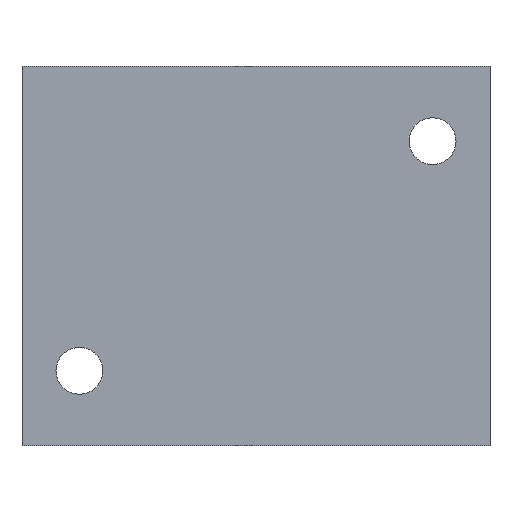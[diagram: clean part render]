
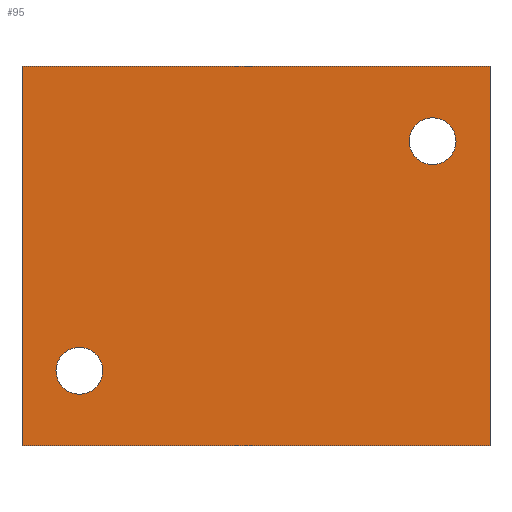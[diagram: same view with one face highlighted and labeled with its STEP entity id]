
A CAD part, front view. The second image highlights one B-rep face of the part: STEP entity #95.
In plain terms, the highlighted planar face has unit normal (0, -1, 0).
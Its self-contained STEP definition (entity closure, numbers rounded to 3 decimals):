
#95=ADVANCED_FACE('',(#218,#219,#220),#221,.F.);
#218=FACE_BOUND('',#470,.T.);
#219=FACE_OUTER_BOUND('',#471,.T.);
#220=FACE_BOUND('',#472,.T.);
#221=PLANE('',#473);
#470=EDGE_LOOP('',(#818));
#471=EDGE_LOOP('',(#819,#820,#821,#822));
#472=EDGE_LOOP('',(#823));
#473=AXIS2_PLACEMENT_3D('',#824,#825,#826);
#818=ORIENTED_EDGE('',*,*,#1290,.T.);
#819=ORIENTED_EDGE('',*,*,#1306,.T.);
#820=ORIENTED_EDGE('',*,*,#1315,.F.);
#821=ORIENTED_EDGE('',*,*,#1298,.F.);
#822=ORIENTED_EDGE('',*,*,#1316,.T.);
#823=ORIENTED_EDGE('',*,*,#1317,.T.);
#824=CARTESIAN_POINT('',(26.5,-22.0,-21.5));
#825=DIRECTION('',(-0.0,1.0,0.0));
#826=DIRECTION('',(1.0,0.0,0.0));
#1290=EDGE_CURVE('',#1477,#1477,#1478,.T.);
#1298=EDGE_CURVE('',#1491,#1493,#1494,.T.);
#1306=EDGE_CURVE('',#1508,#1506,#1509,.T.);
#1315=EDGE_CURVE('',#1493,#1506,#1521,.T.);
#1316=EDGE_CURVE('',#1491,#1508,#1522,.T.);
#1317=EDGE_CURVE('',#1523,#1523,#1524,.T.);
#1477=VERTEX_POINT('',#1793);
#1478=CIRCLE('',#1794,2.65);
#1491=VERTEX_POINT('',#1813);
#1493=VERTEX_POINT('',#1816);
#1494=LINE('',#1817,#1818);
#1506=VERTEX_POINT('',#1836);
#1508=VERTEX_POINT('',#1839);
#1509=LINE('',#1840,#1841);
#1521=LINE('',#1861,#1862);
#1522=LINE('',#1863,#1864);
#1523=VERTEX_POINT('',#1865);
#1524=CIRCLE('',#1866,2.65);
#1793=CARTESIAN_POINT('',(-20.0,-22.0,-15.65));
#1794=AXIS2_PLACEMENT_3D('',#2117,#2118,#2119);
#1813=CARTESIAN_POINT('',(26.5,-22.0,-21.5));
#1816=CARTESIAN_POINT('',(-26.5,-22.0,-21.5));
#1817=CARTESIAN_POINT('',(26.5,-22.0,-21.5));
#1818=VECTOR('',#2127,1.0);
#1836=CARTESIAN_POINT('',(-26.5,-22.0,21.5));
#1839=CARTESIAN_POINT('',(26.5,-22.0,21.5));
#1840=CARTESIAN_POINT('',(26.5,-22.0,21.5));
#1841=VECTOR('',#2135,1.0);
#1861=CARTESIAN_POINT('',(-26.5,-22.0,-21.5));
#1862=VECTOR('',#2144,1.0);
#1863=CARTESIAN_POINT('',(26.5,-22.0,-21.5));
#1864=VECTOR('',#2145,1.0);
#1865=CARTESIAN_POINT('',(20.0,-22.0,15.65));
#1866=AXIS2_PLACEMENT_3D('',#2146,#2147,#2148);
#2117=CARTESIAN_POINT('',(-20.0,-22.0,-13.0));
#2118=DIRECTION('',(0.0,1.0,0.0));
#2119=DIRECTION('',(0.0,0.0,-1.0));
#2127=DIRECTION('',(-1.0,0.0,0.0));
#2135=DIRECTION('',(-1.0,0.0,0.0));
#2144=DIRECTION('',(0.0,0.0,1.0));
#2145=DIRECTION('',(0.0,0.0,1.0));
#2146=CARTESIAN_POINT('',(20.0,-22.0,13.0));
#2147=DIRECTION('',(0.0,1.0,0.0));
#2148=DIRECTION('',(0.,0.0,1.0));
